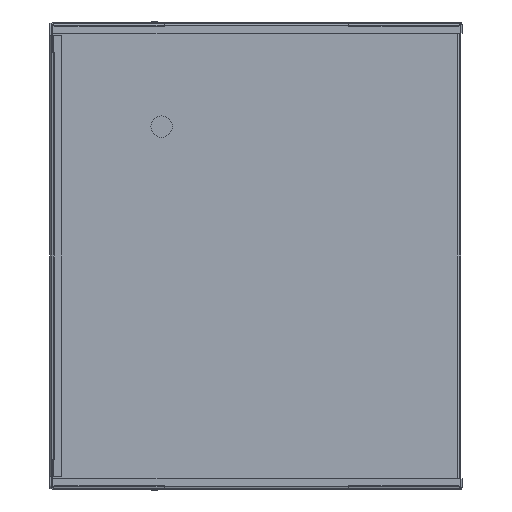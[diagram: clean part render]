
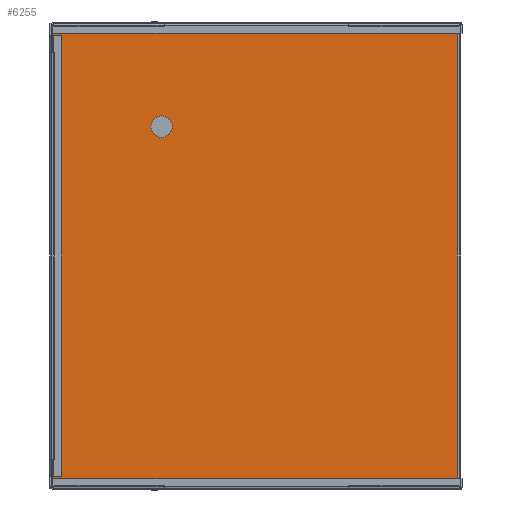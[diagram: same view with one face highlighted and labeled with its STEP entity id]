
A CAD part, left-side view. The second image highlights one B-rep face of the part: STEP entity #6255.
In plain terms, the highlighted planar face has unit normal (-1, 0, 0).
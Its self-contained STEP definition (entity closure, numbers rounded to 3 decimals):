
#78 = CIRCLE ( 'NONE', #7420, 7.5 ) ;
#412 = AXIS2_PLACEMENT_3D ( 'NONE', #12807, #12525, #12734 ) ;
#607 = CARTESIAN_POINT ( 'NONE',  ( -280.229, 319.2, 182.849 ) ) ;
#741 = DIRECTION ( 'NONE',  ( 0., 0., 1. ) ) ;
#855 = CARTESIAN_POINT ( 'NONE',  ( -280.229, 242.9, 110.549 ) ) ;
#856 = DIRECTION ( 'NONE',  ( -1., 0., 0. ) ) ;
#857 = DIRECTION ( 'NONE',  ( 0., -1., 0. ) ) ;
#1219 = DIRECTION ( 'NONE',  ( 0., 0., 1. ) ) ;
#1230 = CARTESIAN_POINT ( 'NONE',  ( -280.229, 242.9, 110.549 ) ) ;
#1231 = DIRECTION ( 'NONE',  ( -1., 0., 0. ) ) ;
#1233 = DIRECTION ( 'NONE',  ( 0., -1., 0. ) ) ;
#1251 = DIRECTION ( 'NONE',  ( 0., -1., 0. ) ) ;
#1252 = CARTESIAN_POINT ( 'NONE',  ( -280.229, 34.2, 162.349 ) ) ;
#1259 = CARTESIAN_POINT ( 'NONE',  ( -280.229, 319.2, 182.849 ) ) ;
#3323 = VERTEX_POINT ( 'NONE', #9896 ) ;
#3429 = VERTEX_POINT ( 'NONE', #10201 ) ;
#3447 = VERTEX_POINT ( 'NONE', #10200 ) ;
#3518 = VERTEX_POINT ( 'NONE', #10330 ) ;
#3541 = VERTEX_POINT ( 'NONE', #10329 ) ;
#3550 = VERTEX_POINT ( 'NONE', #10404 ) ;
#3578 = VERTEX_POINT ( 'NONE', #10332 ) ;
#3648 = EDGE_LOOP ( 'NONE', ( #7746, #7675, #7676, #7771, #7961, #7813, #7617, #8003 ) ) ;
#3678 = EDGE_LOOP ( 'NONE', ( #7773, #7622 ) ) ;
#3917 = AXIS2_PLACEMENT_3D ( 'NONE', #1230, #1231, #1233 ) ;
#5595 = VERTEX_POINT ( 'NONE', #9990 ) ;
#5619 = VERTEX_POINT ( 'NONE', #10391 ) ;
#5651 = VERTEX_POINT ( 'NONE', #10185 ) ;
#6255 = ADVANCED_FACE ( 'NONE', ( #6717, #6766 ), #12510, .T. ) ;
#6717 = FACE_BOUND ( 'NONE', #3678, .T. ) ;
#6766 = FACE_OUTER_BOUND ( 'NONE', #3648, .T. ) ;
#7420 = AXIS2_PLACEMENT_3D ( 'NONE', #855, #856, #857 ) ;
#7617 = ORIENTED_EDGE ( 'NONE', *, *, #15127, .T. ) ;
#7622 = ORIENTED_EDGE ( 'NONE', *, *, #15542, .F. ) ;
#7675 = ORIENTED_EDGE ( 'NONE', *, *, #15195, .T. ) ;
#7676 = ORIENTED_EDGE ( 'NONE', *, *, #15120, .T. ) ;
#7746 = ORIENTED_EDGE ( 'NONE', *, *, #15340, .F. ) ;
#7771 = ORIENTED_EDGE ( 'NONE', *, *, #15224, .T. ) ;
#7773 = ORIENTED_EDGE ( 'NONE', *, *, #15315, .F. ) ;
#7813 = ORIENTED_EDGE ( 'NONE', *, *, #15309, .T. ) ;
#7961 = ORIENTED_EDGE ( 'NONE', *, *, #15307, .F. ) ;
#8003 = ORIENTED_EDGE ( 'NONE', *, *, #15125, .T. ) ;
#9896 = CARTESIAN_POINT ( 'NONE',  ( -280.229, 235.4, 110.549 ) ) ;
#9990 = CARTESIAN_POINT ( 'NONE',  ( -280.229, 317.9, -122.651 ) ) ;
#10185 = CARTESIAN_POINT ( 'NONE',  ( -280.229, 319.2, -122.651 ) ) ;
#10200 = CARTESIAN_POINT ( 'NONE',  ( -280.229, 35.5, 180.549 ) ) ;
#10201 = CARTESIAN_POINT ( 'NONE',  ( -280.229, 319.2, 180.549 ) ) ;
#10329 = CARTESIAN_POINT ( 'NONE',  ( -280.229, 319.2, -140.851 ) ) ;
#10330 = CARTESIAN_POINT ( 'NONE',  ( -280.229, 250.4, 110.549 ) ) ;
#10332 = CARTESIAN_POINT ( 'NONE',  ( -280.229, 35.5, -140.851 ) ) ;
#10391 = CARTESIAN_POINT ( 'NONE',  ( -280.229, 317.9, 162.349 ) ) ;
#10404 = CARTESIAN_POINT ( 'NONE',  ( -280.229, 319.2, 162.349 ) ) ;
#11002 = LINE ( 'NONE', #1259, #11006 ) ;
#11006 = VECTOR ( 'NONE', #1219, 1000. ) ;
#11060 = LINE ( 'NONE', #607, #11195 ) ;
#11148 = VECTOR ( 'NONE', #1251, 1000. ) ;
#11157 = LINE ( 'NONE', #1252, #11148 ) ;
#11159 = CIRCLE ( 'NONE', #3917, 7.5 ) ;
#11195 = VECTOR ( 'NONE', #741, 1000. ) ;
#12459 = DIRECTION ( 'NONE',  ( 0., 0., 1. ) ) ;
#12464 = DIRECTION ( 'NONE',  ( 0., 0., -1. ) ) ;
#12474 = CARTESIAN_POINT ( 'NONE',  ( -280.229, 34.2, -122.651 ) ) ;
#12485 = CARTESIAN_POINT ( 'NONE',  ( -280.229, 35.5, 19.849 ) ) ;
#12506 = DIRECTION ( 'NONE',  ( 0., 1., 0. ) ) ;
#12510 = PLANE ( 'NONE',  #412 ) ;
#12525 = DIRECTION ( 'NONE',  ( -1., 0., 0. ) ) ;
#12734 = DIRECTION ( 'NONE',  ( 0., -1., 0. ) ) ;
#12807 = CARTESIAN_POINT ( 'NONE',  ( -280.229, 34.2, 19.849 ) ) ;
#12899 = CARTESIAN_POINT ( 'NONE',  ( -280.229, 317.9, 162.349 ) ) ;
#13348 = CARTESIAN_POINT ( 'NONE',  ( -280.229, 35.5, 180.549 ) ) ;
#13349 = CARTESIAN_POINT ( 'NONE',  ( -280.229, 319.2, -140.851 ) ) ;
#13374 = DIRECTION ( 'NONE',  ( 0., -1., 0. ) ) ;
#13479 = DIRECTION ( 'NONE',  ( 0., 1., 0. ) ) ;
#14093 = LINE ( 'NONE', #12474, #14530 ) ;
#14109 = VECTOR ( 'NONE', #13479, 1000. ) ;
#14119 = LINE ( 'NONE', #13349, #14483 ) ;
#14139 = LINE ( 'NONE', #13348, #14109 ) ;
#14258 = VECTOR ( 'NONE', #12464, 1000. ) ;
#14279 = LINE ( 'NONE', #12899, #14258 ) ;
#14333 = VECTOR ( 'NONE', #12459, 1000. ) ;
#14483 = VECTOR ( 'NONE', #13374, 1000. ) ;
#14530 = VECTOR ( 'NONE', #12506, 1000. ) ;
#14538 = LINE ( 'NONE', #12485, #14333 ) ;
#15120 = EDGE_CURVE ( 'NONE', #3578, #3447, #14538, .T. ) ;
#15125 = EDGE_CURVE ( 'NONE', #5595, #5651, #14093, .T. ) ;
#15127 = EDGE_CURVE ( 'NONE', #5619, #5595, #14279, .T. ) ;
#15195 = EDGE_CURVE ( 'NONE', #3541, #3578, #14119, .T. ) ;
#15224 = EDGE_CURVE ( 'NONE', #3447, #3429, #14139, .T. ) ;
#15307 = EDGE_CURVE ( 'NONE', #3550, #3429, #11002, .T. ) ;
#15309 = EDGE_CURVE ( 'NONE', #3550, #5619, #11157, .T. ) ;
#15315 = EDGE_CURVE ( 'NONE', #3323, #3518, #11159, .T. ) ;
#15340 = EDGE_CURVE ( 'NONE', #3541, #5651, #11060, .T. ) ;
#15542 = EDGE_CURVE ( 'NONE', #3518, #3323, #78, .T. ) ;
